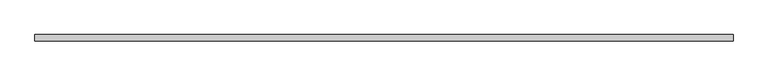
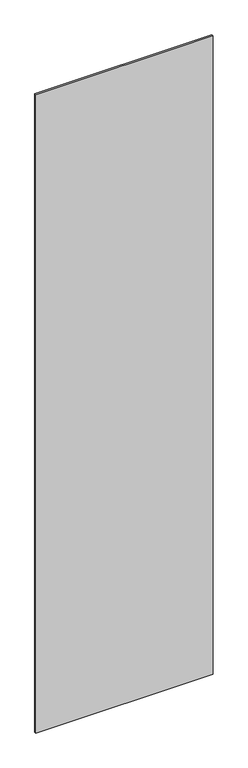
"""IFC4 building model written with IfcOpenShell, lengths in millimetres: plate geometry, システム パネル : 標準."""

from ifc_helpers import new_model, si_unit, origin, origin_with_axes, place, context, project, spatial, polyline, outline, extrude, source, transform, mapped, element, save


def plate_86cfdeea(model_context):
    return source(origin(), model_context, "Body", "SweptSolid", [
        extrude(outline(polyline([(572.5, -5.0), (-572.5, -5.0), (-572.5, 5.0), (572.5, 5.0), (572.5, -5.0)])), origin_with_axes(), (0.0, 0.0, 1.0), 4360.0),
    ])


if __name__ == "__main__":
    model = new_model("IFC4")
    model_context = context("Model", 3, world=origin())
    ifc_project = project(units=[si_unit("LENGTHUNIT", "METRE", prefix="MILLI")], contexts=[model_context])
    site = spatial("IfcSite", under=ifc_project)
    building = spatial("IfcBuilding", under=site)
    placement = place(None, origin())
    plate_shape = plate_86cfdeea(model_context)
    element("IfcPlate", 1, ObjectType="システム パネル : 標準", at=placement, inside=building, context=model_context, shape_type="MappedRepresentation", body=[
        mapped(plate_shape, transform((0.0, 0.0, 0.0), x_axis=(1.0, 0.0, 0.0), y_axis=(0.0, 1.0, 0.0), z_axis=(0.0, 0.0, 1.0))),
    ])
    save(model, "model.ifc")
